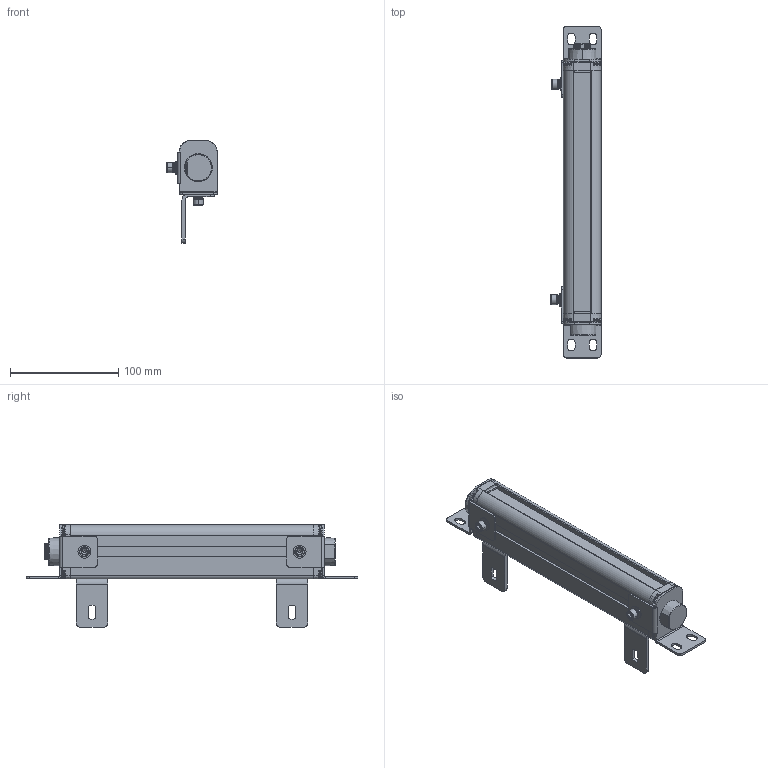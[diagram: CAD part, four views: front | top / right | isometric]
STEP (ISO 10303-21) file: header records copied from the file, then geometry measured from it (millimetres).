
FILE_DESCRIPTION((''),'2;1');
FILE_NAME('ESN--000_ASM','2021-08-10T21:10:21',('18720616900'),(''),'CREO PARAMETRIC BY PTC INC, 2019010','CREO PARAMETRIC BY PTC INC, 2019010','');
FILE_SCHEMA(('CONFIG_CONTROL_DESIGN'));
Products named in the file (22): 00; 000; _0002; _0003; _0004; 5000; 5--0001; ESN_50001_ASM; ST-3-120001; L10001; M6-8--0001; M6-1--00; M6-1-00; M6-80001_ASM; L1--0001_ASM; H1--000; H1--0003_ASM; H1--0001_ASM; ESN--000_ASM
Assembly tree (35 placements, depth 4):
  ESN--000_ASM
    00
    000
    _0002
    _0003
    _0004
    000
    ESN_50001_ASM
      5000
      5--0001  x5
    ST-3-120001  x8
    L1--0001_ASM  x2
      L10001
      M6-80001_ASM
        M6-8--0001
        M6-1--00
        M6-1-00
        00
    H1--0003_ASM
      H1--000
      M6-80001_ASM
        M6-8--0001
        M6-1--00
        M6-1-00
        00
    H1--0001_ASM
      H1--000
      M6-80001_ASM
        M6-8--0001
        M6-1--00
        M6-1-00
        00
Bounding box: 46.5 x 307 x 94.95 mm (x, y, z)
Volume: 392242.8 mm3; surface area: 115842.6 mm2
Topology: 40 solids, 40 shells, 1785 faces, 4708 edges, 3012 vertices
Faces by surface type: plane 583, cylinder 416, bspline 362, cone 291, torus 107, sphere 26
Entity records: 48222 total; most frequent: CARTESIAN_POINT 24957, ORIENTED_EDGE 5136, DIRECTION 4189, EDGE_CURVE 2568, VERTEX_POINT 1669, AXIS2_PLACEMENT_3D 1488, VECTOR 1213, LINE 1213
